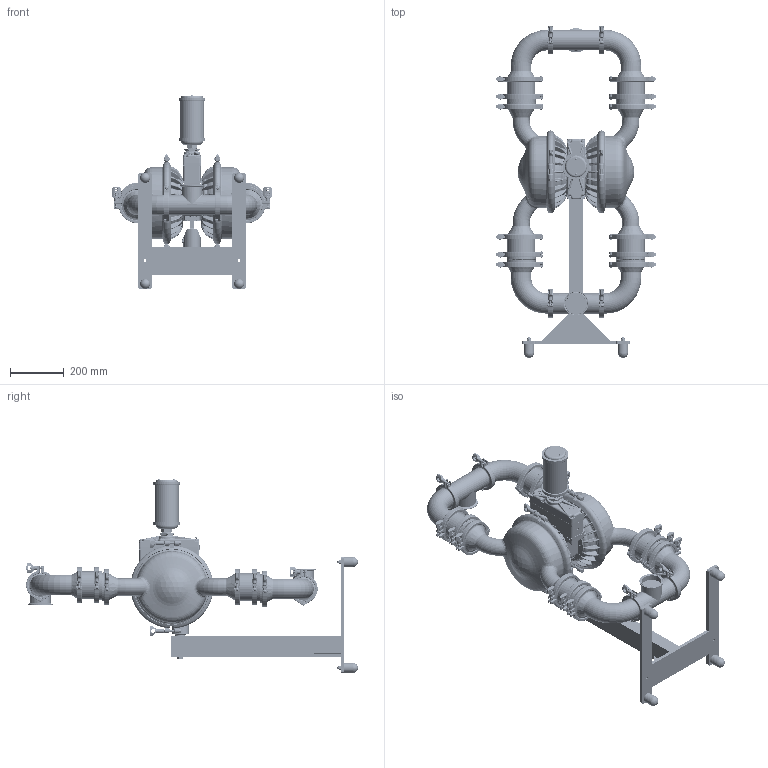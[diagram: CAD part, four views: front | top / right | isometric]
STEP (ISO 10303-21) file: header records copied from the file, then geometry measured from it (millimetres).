
FILE_DESCRIPTION (( 'STEP AP203' ), '1' );
FILE_NAME ('ps15_ss_saniflo_hs_flap_swivel_iso.STEP', '2022-07-01T12:04:11', ( '' ), ( '' ), 'SwSTEP 2.0', 'SolidWorks 2019', '' );
FILE_SCHEMA (( 'CONFIG_CONTROL_DESIGN' ));
Length unit declared in the file: inch
Products named in the file (1): ps15_ss_saniflo_hs_flap_swivel_iso
Bounding box: 597.97 x 1233.26 x 721.37 mm (x, y, z)
Volume: 37205082.5 mm3; surface area: 2444718.5 mm2
Topology: 1 solids, 1 shells, 13106 faces, 32556 edges, 19549 vertices
Faces by surface type: plane 4291, cylinder 2906, bspline 2802, torus 1864, cone 741, sphere 502
Entity records: 799536 total; most frequent: CARTESIAN_POINT 509320, ORIENTED_EDGE 64504, DIRECTION 56311, EDGE_CURVE 32252, AXIS2_PLACEMENT_3D 21372, VERTEX_POINT 19453, EDGE_LOOP 13641, LINE 13567
